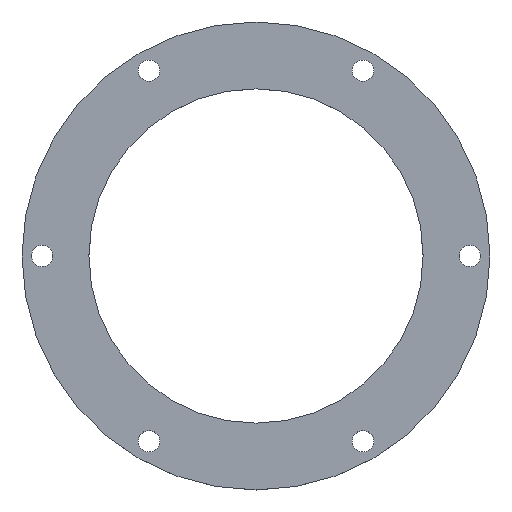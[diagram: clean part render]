
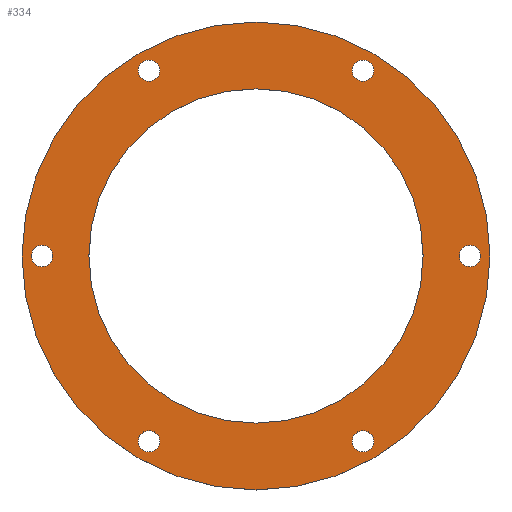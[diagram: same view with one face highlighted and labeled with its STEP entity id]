
A CAD part, top view. The second image highlights one B-rep face of the part: STEP entity #334.
In plain terms, the highlighted planar face has unit normal (0, 0, 1).
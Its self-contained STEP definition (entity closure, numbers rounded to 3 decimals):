
#24 = VERTEX_POINT('',#25);
#25 = CARTESIAN_POINT('',(-35.,0.,18.));
#32 = CYLINDRICAL_SURFACE('',#33,35.);
#33 = AXIS2_PLACEMENT_3D('',#34,#35,#36);
#34 = CARTESIAN_POINT('',(0.,0.,16.));
#35 = DIRECTION('',(0.,-0.,-1.));
#36 = DIRECTION('',(-1.,-0.,-0.));
#51 = EDGE_CURVE('',#24,#24,#52,.T.);
#52 = SURFACE_CURVE('',#53,(#58,#65),.PCURVE_S1.);
#53 = CIRCLE('',#54,35.);
#54 = AXIS2_PLACEMENT_3D('',#55,#56,#57);
#55 = CARTESIAN_POINT('',(0.,0.,18.));
#56 = DIRECTION('',(0.,0.,-1.));
#57 = DIRECTION('',(-1.,-0.,-0.));
#58 = PCURVE('',#32,#59);
#59 = DEFINITIONAL_REPRESENTATION('',(#60),#64);
#60 = LINE('',#61,#62);
#61 = CARTESIAN_POINT('',(0.,-2.));
#62 = VECTOR('',#63,1.);
#63 = DIRECTION('',(1.,0.));
#64 = ( GEOMETRIC_REPRESENTATION_CONTEXT(2) 
PARAMETRIC_REPRESENTATION_CONTEXT() REPRESENTATION_CONTEXT('2D SPACE',''
  ) );
#65 = PCURVE('',#66,#71);
#66 = PLANE('',#67);
#67 = AXIS2_PLACEMENT_3D('',#68,#69,#70);
#68 = CARTESIAN_POINT('',(0.,0.,18.));
#69 = DIRECTION('',(-0.,-0.,1.));
#70 = DIRECTION('',(1.,0.,0.));
#71 = DEFINITIONAL_REPRESENTATION('',(#72),#80);
#72 = ( BOUNDED_CURVE() B_SPLINE_CURVE(2,(#73,#74,#75,#76,#77,#78,#79),
.UNSPECIFIED.,.T.,.F.) B_SPLINE_CURVE_WITH_KNOTS((1,2,2,2,2,1),(
    -2.094,0.,2.094,4.189,6.283,
8.378),.UNSPECIFIED.) CURVE() GEOMETRIC_REPRESENTATION_ITEM() 
RATIONAL_B_SPLINE_CURVE((1.,0.5,1.,0.5,1.,0.5,1.)) REPRESENTATION_ITEM(
  '') );
#73 = CARTESIAN_POINT('',(-35.,0.));
#74 = CARTESIAN_POINT('',(-35.,60.622));
#75 = CARTESIAN_POINT('',(17.5,30.311));
#76 = CARTESIAN_POINT('',(70.,0.));
#77 = CARTESIAN_POINT('',(17.5,-30.311));
#78 = CARTESIAN_POINT('',(-35.,-60.622));
#79 = CARTESIAN_POINT('',(-35.,0.));
#80 = ( GEOMETRIC_REPRESENTATION_CONTEXT(2) 
PARAMETRIC_REPRESENTATION_CONTEXT() REPRESENTATION_CONTEXT('2D SPACE',''
  ) );
#137 = CYLINDRICAL_SURFACE('',#138,1.6);
#138 = AXIS2_PLACEMENT_3D('',#139,#140,#141);
#139 = CARTESIAN_POINT('',(16.,-27.713,11.));
#140 = DIRECTION('',(0.,-0.,-1.));
#141 = DIRECTION('',(-1.,-0.,-0.));
#168 = CYLINDRICAL_SURFACE('',#169,1.6);
#169 = AXIS2_PLACEMENT_3D('',#170,#171,#172);
#170 = CARTESIAN_POINT('',(-16.,-27.713,11.));
#171 = DIRECTION('',(0.,-0.,-1.));
#172 = DIRECTION('',(-1.,-0.,-0.));
#199 = CYLINDRICAL_SURFACE('',#200,1.6);
#200 = AXIS2_PLACEMENT_3D('',#201,#202,#203);
#201 = CARTESIAN_POINT('',(32.,0.,11.));
#202 = DIRECTION('',(0.,-0.,-1.));
#203 = DIRECTION('',(-1.,-0.,-0.));
#230 = CYLINDRICAL_SURFACE('',#231,1.6);
#231 = AXIS2_PLACEMENT_3D('',#232,#233,#234);
#232 = CARTESIAN_POINT('',(16.,27.713,11.));
#233 = DIRECTION('',(0.,-0.,-1.));
#234 = DIRECTION('',(-1.,-0.,-0.));
#261 = CYLINDRICAL_SURFACE('',#262,25.);
#262 = AXIS2_PLACEMENT_3D('',#263,#264,#265);
#263 = CARTESIAN_POINT('',(0.,0.,15.));
#264 = DIRECTION('',(0.,-0.,-1.));
#265 = DIRECTION('',(-1.,-0.,-0.));
#292 = CYLINDRICAL_SURFACE('',#293,1.6);
#293 = AXIS2_PLACEMENT_3D('',#294,#295,#296);
#294 = CARTESIAN_POINT('',(-32.,0.,11.));
#295 = DIRECTION('',(0.,-0.,-1.));
#296 = DIRECTION('',(-1.,-0.,-0.));
#323 = CYLINDRICAL_SURFACE('',#324,1.6);
#324 = AXIS2_PLACEMENT_3D('',#325,#326,#327);
#325 = CARTESIAN_POINT('',(-16.,27.713,11.));
#326 = DIRECTION('',(0.,-0.,-1.));
#327 = DIRECTION('',(-1.,-0.,-0.));
#334 = ADVANCED_FACE('',(#335,#338,#364,#390,#416,#442,#468,#494),#66,
  .T.);
#335 = FACE_BOUND('',#336,.F.);
#336 = EDGE_LOOP('',(#337));
#337 = ORIENTED_EDGE('',*,*,#51,.T.);
#338 = FACE_BOUND('',#339,.F.);
#339 = EDGE_LOOP('',(#340));
#340 = ORIENTED_EDGE('',*,*,#341,.T.);
#341 = EDGE_CURVE('',#342,#342,#344,.T.);
#342 = VERTEX_POINT('',#343);
#343 = CARTESIAN_POINT('',(14.4,-27.713,18.));
#344 = SURFACE_CURVE('',#345,(#350,#357),.PCURVE_S1.);
#345 = CIRCLE('',#346,1.6);
#346 = AXIS2_PLACEMENT_3D('',#347,#348,#349);
#347 = CARTESIAN_POINT('',(16.,-27.713,18.));
#348 = DIRECTION('',(0.,0.,1.));
#349 = DIRECTION('',(-1.,-0.,-0.));
#350 = PCURVE('',#66,#351);
#351 = DEFINITIONAL_REPRESENTATION('',(#352),#356);
#352 = CIRCLE('',#353,1.6);
#353 = AXIS2_PLACEMENT_2D('',#354,#355);
#354 = CARTESIAN_POINT('',(16.,-27.713));
#355 = DIRECTION('',(-1.,0.));
#356 = ( GEOMETRIC_REPRESENTATION_CONTEXT(2) 
PARAMETRIC_REPRESENTATION_CONTEXT() REPRESENTATION_CONTEXT('2D SPACE',''
  ) );
#357 = PCURVE('',#137,#358);
#358 = DEFINITIONAL_REPRESENTATION('',(#359),#363);
#359 = LINE('',#360,#361);
#360 = CARTESIAN_POINT('',(6.283,-7.));
#361 = VECTOR('',#362,1.);
#362 = DIRECTION('',(-1.,0.));
#363 = ( GEOMETRIC_REPRESENTATION_CONTEXT(2) 
PARAMETRIC_REPRESENTATION_CONTEXT() REPRESENTATION_CONTEXT('2D SPACE',''
  ) );
#364 = FACE_BOUND('',#365,.F.);
#365 = EDGE_LOOP('',(#366));
#366 = ORIENTED_EDGE('',*,*,#367,.T.);
#367 = EDGE_CURVE('',#368,#368,#370,.T.);
#368 = VERTEX_POINT('',#369);
#369 = CARTESIAN_POINT('',(-17.6,-27.713,18.));
#370 = SURFACE_CURVE('',#371,(#376,#383),.PCURVE_S1.);
#371 = CIRCLE('',#372,1.6);
#372 = AXIS2_PLACEMENT_3D('',#373,#374,#375);
#373 = CARTESIAN_POINT('',(-16.,-27.713,18.));
#374 = DIRECTION('',(0.,0.,1.));
#375 = DIRECTION('',(-1.,-0.,-0.));
#376 = PCURVE('',#66,#377);
#377 = DEFINITIONAL_REPRESENTATION('',(#378),#382);
#378 = CIRCLE('',#379,1.6);
#379 = AXIS2_PLACEMENT_2D('',#380,#381);
#380 = CARTESIAN_POINT('',(-16.,-27.713));
#381 = DIRECTION('',(-1.,0.));
#382 = ( GEOMETRIC_REPRESENTATION_CONTEXT(2) 
PARAMETRIC_REPRESENTATION_CONTEXT() REPRESENTATION_CONTEXT('2D SPACE',''
  ) );
#383 = PCURVE('',#168,#384);
#384 = DEFINITIONAL_REPRESENTATION('',(#385),#389);
#385 = LINE('',#386,#387);
#386 = CARTESIAN_POINT('',(6.283,-7.));
#387 = VECTOR('',#388,1.);
#388 = DIRECTION('',(-1.,0.));
#389 = ( GEOMETRIC_REPRESENTATION_CONTEXT(2) 
PARAMETRIC_REPRESENTATION_CONTEXT() REPRESENTATION_CONTEXT('2D SPACE',''
  ) );
#390 = FACE_BOUND('',#391,.F.);
#391 = EDGE_LOOP('',(#392));
#392 = ORIENTED_EDGE('',*,*,#393,.T.);
#393 = EDGE_CURVE('',#394,#394,#396,.T.);
#394 = VERTEX_POINT('',#395);
#395 = CARTESIAN_POINT('',(30.4,0.,18.));
#396 = SURFACE_CURVE('',#397,(#402,#409),.PCURVE_S1.);
#397 = CIRCLE('',#398,1.6);
#398 = AXIS2_PLACEMENT_3D('',#399,#400,#401);
#399 = CARTESIAN_POINT('',(32.,0.,18.));
#400 = DIRECTION('',(0.,0.,1.));
#401 = DIRECTION('',(-1.,-0.,-0.));
#402 = PCURVE('',#66,#403);
#403 = DEFINITIONAL_REPRESENTATION('',(#404),#408);
#404 = CIRCLE('',#405,1.6);
#405 = AXIS2_PLACEMENT_2D('',#406,#407);
#406 = CARTESIAN_POINT('',(32.,0.));
#407 = DIRECTION('',(-1.,0.));
#408 = ( GEOMETRIC_REPRESENTATION_CONTEXT(2) 
PARAMETRIC_REPRESENTATION_CONTEXT() REPRESENTATION_CONTEXT('2D SPACE',''
  ) );
#409 = PCURVE('',#199,#410);
#410 = DEFINITIONAL_REPRESENTATION('',(#411),#415);
#411 = LINE('',#412,#413);
#412 = CARTESIAN_POINT('',(6.283,-7.));
#413 = VECTOR('',#414,1.);
#414 = DIRECTION('',(-1.,0.));
#415 = ( GEOMETRIC_REPRESENTATION_CONTEXT(2) 
PARAMETRIC_REPRESENTATION_CONTEXT() REPRESENTATION_CONTEXT('2D SPACE',''
  ) );
#416 = FACE_BOUND('',#417,.F.);
#417 = EDGE_LOOP('',(#418));
#418 = ORIENTED_EDGE('',*,*,#419,.T.);
#419 = EDGE_CURVE('',#420,#420,#422,.T.);
#420 = VERTEX_POINT('',#421);
#421 = CARTESIAN_POINT('',(14.4,27.713,18.));
#422 = SURFACE_CURVE('',#423,(#428,#435),.PCURVE_S1.);
#423 = CIRCLE('',#424,1.6);
#424 = AXIS2_PLACEMENT_3D('',#425,#426,#427);
#425 = CARTESIAN_POINT('',(16.,27.713,18.));
#426 = DIRECTION('',(0.,0.,1.));
#427 = DIRECTION('',(-1.,-0.,-0.));
#428 = PCURVE('',#66,#429);
#429 = DEFINITIONAL_REPRESENTATION('',(#430),#434);
#430 = CIRCLE('',#431,1.6);
#431 = AXIS2_PLACEMENT_2D('',#432,#433);
#432 = CARTESIAN_POINT('',(16.,27.713));
#433 = DIRECTION('',(-1.,0.));
#434 = ( GEOMETRIC_REPRESENTATION_CONTEXT(2) 
PARAMETRIC_REPRESENTATION_CONTEXT() REPRESENTATION_CONTEXT('2D SPACE',''
  ) );
#435 = PCURVE('',#230,#436);
#436 = DEFINITIONAL_REPRESENTATION('',(#437),#441);
#437 = LINE('',#438,#439);
#438 = CARTESIAN_POINT('',(6.283,-7.));
#439 = VECTOR('',#440,1.);
#440 = DIRECTION('',(-1.,0.));
#441 = ( GEOMETRIC_REPRESENTATION_CONTEXT(2) 
PARAMETRIC_REPRESENTATION_CONTEXT() REPRESENTATION_CONTEXT('2D SPACE',''
  ) );
#442 = FACE_BOUND('',#443,.F.);
#443 = EDGE_LOOP('',(#444));
#444 = ORIENTED_EDGE('',*,*,#445,.T.);
#445 = EDGE_CURVE('',#446,#446,#448,.T.);
#446 = VERTEX_POINT('',#447);
#447 = CARTESIAN_POINT('',(-25.,0.,18.));
#448 = SURFACE_CURVE('',#449,(#454,#461),.PCURVE_S1.);
#449 = CIRCLE('',#450,25.);
#450 = AXIS2_PLACEMENT_3D('',#451,#452,#453);
#451 = CARTESIAN_POINT('',(0.,0.,18.));
#452 = DIRECTION('',(0.,0.,1.));
#453 = DIRECTION('',(-1.,-0.,-0.));
#454 = PCURVE('',#66,#455);
#455 = DEFINITIONAL_REPRESENTATION('',(#456),#460);
#456 = CIRCLE('',#457,25.);
#457 = AXIS2_PLACEMENT_2D('',#458,#459);
#458 = CARTESIAN_POINT('',(0.,0.));
#459 = DIRECTION('',(-1.,0.));
#460 = ( GEOMETRIC_REPRESENTATION_CONTEXT(2) 
PARAMETRIC_REPRESENTATION_CONTEXT() REPRESENTATION_CONTEXT('2D SPACE',''
  ) );
#461 = PCURVE('',#261,#462);
#462 = DEFINITIONAL_REPRESENTATION('',(#463),#467);
#463 = LINE('',#464,#465);
#464 = CARTESIAN_POINT('',(6.283,-3.));
#465 = VECTOR('',#466,1.);
#466 = DIRECTION('',(-1.,0.));
#467 = ( GEOMETRIC_REPRESENTATION_CONTEXT(2) 
PARAMETRIC_REPRESENTATION_CONTEXT() REPRESENTATION_CONTEXT('2D SPACE',''
  ) );
#468 = FACE_BOUND('',#469,.F.);
#469 = EDGE_LOOP('',(#470));
#470 = ORIENTED_EDGE('',*,*,#471,.T.);
#471 = EDGE_CURVE('',#472,#472,#474,.T.);
#472 = VERTEX_POINT('',#473);
#473 = CARTESIAN_POINT('',(-33.6,0.,18.));
#474 = SURFACE_CURVE('',#475,(#480,#487),.PCURVE_S1.);
#475 = CIRCLE('',#476,1.6);
#476 = AXIS2_PLACEMENT_3D('',#477,#478,#479);
#477 = CARTESIAN_POINT('',(-32.,0.,18.));
#478 = DIRECTION('',(0.,0.,1.));
#479 = DIRECTION('',(-1.,-0.,-0.));
#480 = PCURVE('',#66,#481);
#481 = DEFINITIONAL_REPRESENTATION('',(#482),#486);
#482 = CIRCLE('',#483,1.6);
#483 = AXIS2_PLACEMENT_2D('',#484,#485);
#484 = CARTESIAN_POINT('',(-32.,0.));
#485 = DIRECTION('',(-1.,0.));
#486 = ( GEOMETRIC_REPRESENTATION_CONTEXT(2) 
PARAMETRIC_REPRESENTATION_CONTEXT() REPRESENTATION_CONTEXT('2D SPACE',''
  ) );
#487 = PCURVE('',#292,#488);
#488 = DEFINITIONAL_REPRESENTATION('',(#489),#493);
#489 = LINE('',#490,#491);
#490 = CARTESIAN_POINT('',(6.283,-7.));
#491 = VECTOR('',#492,1.);
#492 = DIRECTION('',(-1.,0.));
#493 = ( GEOMETRIC_REPRESENTATION_CONTEXT(2) 
PARAMETRIC_REPRESENTATION_CONTEXT() REPRESENTATION_CONTEXT('2D SPACE',''
  ) );
#494 = FACE_BOUND('',#495,.F.);
#495 = EDGE_LOOP('',(#496));
#496 = ORIENTED_EDGE('',*,*,#497,.T.);
#497 = EDGE_CURVE('',#498,#498,#500,.T.);
#498 = VERTEX_POINT('',#499);
#499 = CARTESIAN_POINT('',(-17.6,27.713,18.));
#500 = SURFACE_CURVE('',#501,(#506,#513),.PCURVE_S1.);
#501 = CIRCLE('',#502,1.6);
#502 = AXIS2_PLACEMENT_3D('',#503,#504,#505);
#503 = CARTESIAN_POINT('',(-16.,27.713,18.));
#504 = DIRECTION('',(0.,0.,1.));
#505 = DIRECTION('',(-1.,-0.,-0.));
#506 = PCURVE('',#66,#507);
#507 = DEFINITIONAL_REPRESENTATION('',(#508),#512);
#508 = CIRCLE('',#509,1.6);
#509 = AXIS2_PLACEMENT_2D('',#510,#511);
#510 = CARTESIAN_POINT('',(-16.,27.713));
#511 = DIRECTION('',(-1.,0.));
#512 = ( GEOMETRIC_REPRESENTATION_CONTEXT(2) 
PARAMETRIC_REPRESENTATION_CONTEXT() REPRESENTATION_CONTEXT('2D SPACE',''
  ) );
#513 = PCURVE('',#323,#514);
#514 = DEFINITIONAL_REPRESENTATION('',(#515),#519);
#515 = LINE('',#516,#517);
#516 = CARTESIAN_POINT('',(6.283,-7.));
#517 = VECTOR('',#518,1.);
#518 = DIRECTION('',(-1.,0.));
#519 = ( GEOMETRIC_REPRESENTATION_CONTEXT(2) 
PARAMETRIC_REPRESENTATION_CONTEXT() REPRESENTATION_CONTEXT('2D SPACE',''
  ) );
